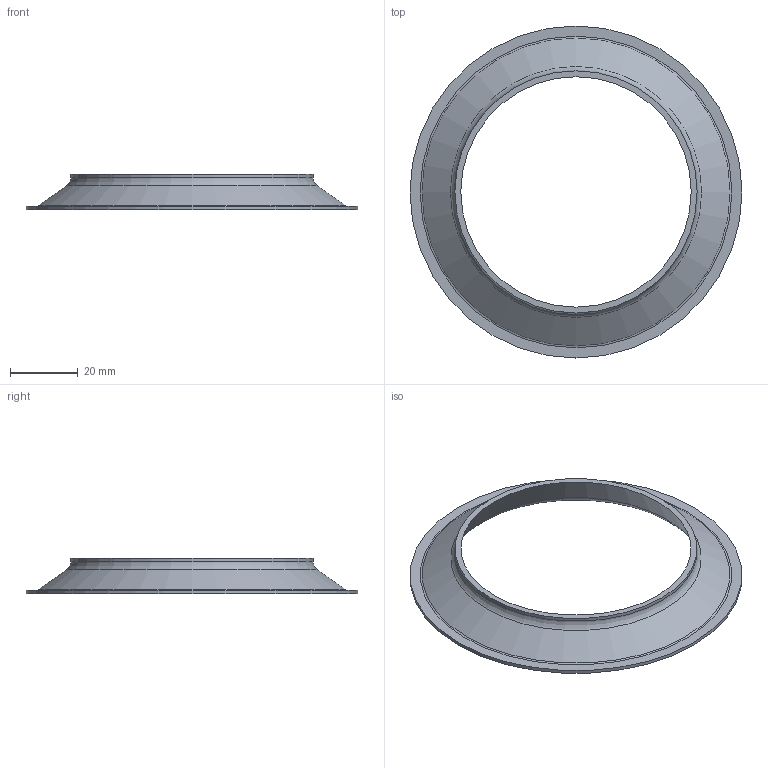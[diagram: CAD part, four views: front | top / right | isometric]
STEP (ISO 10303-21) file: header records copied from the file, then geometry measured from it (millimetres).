
FILE_DESCRIPTION( ('This file contains a STEP AP42 implementation' ,'as created by ZW3D STEP Interface translator.') ,'2;1' );
FILE_NAME( 'KM-68.stp' ,'26 518.133956', (''), ('ZWCAD Software Co.'), 'Version 1.0', 'ZW3D to STEP translator', '' );
FILE_SCHEMA(('AP242_MANAGED_MODEL_BASED_3D_ENGINEERING_MIM_LF { 1 0 10303 442 1 1 4 }'));
Length unit declared in the file: millimetre
Products named in the file (1): 0
Bounding box: 98 x 98 x 10.5 mm (x, y, z)
Volume: 10212.6 mm3; surface area: 10654.9 mm2
Topology: 1 solids, 1 shells, 10 faces, 17 edges, 10 vertices
Faces by surface type: plane 3, torus 3, cylinder 2, cone 2
Full cylindrical faces by diameter (mm): 71.5 x1, 98 x1
Entity records: 276 total; most frequent: DIRECTION 52, CARTESIAN_POINT 38, ORIENTED_EDGE 34, AXIS2_PLACEMENT_3D 24, EDGE_CURVE 17, CIRCLE 13, EDGE_LOOP 13, VERTEX_POINT 10
